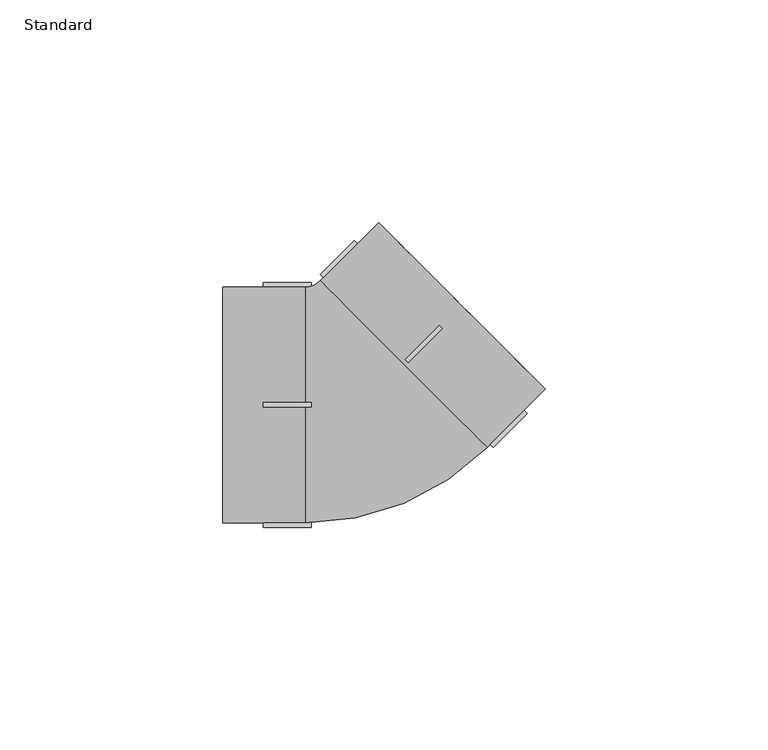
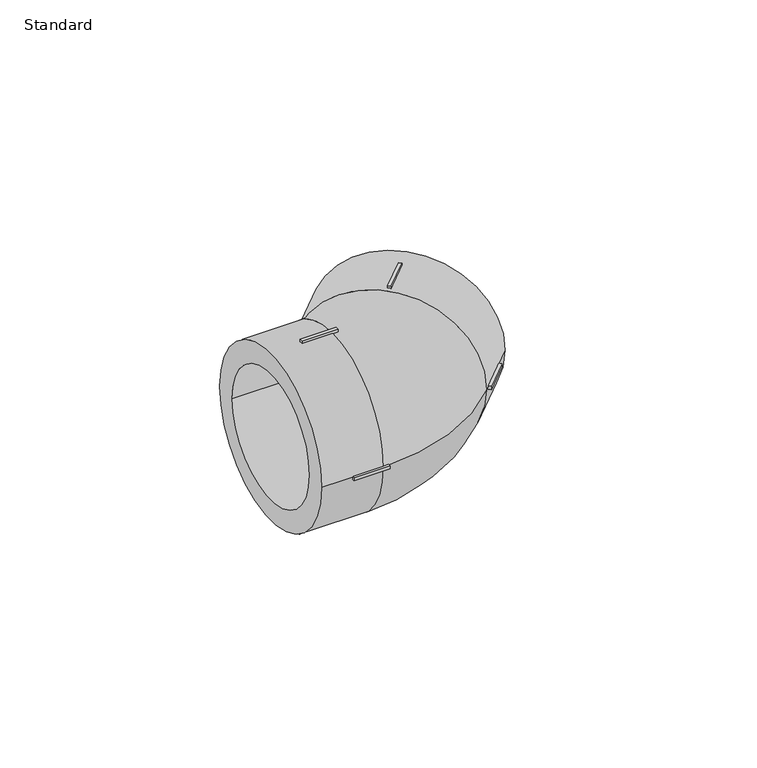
"""IFC4 building model written with IfcOpenShell, lengths in millimetres: pipe fitting geometry, EGB_VASEN_ PPR_Codo 90 WXR200_Codo 45 WXR220  : Standard."""

from ifc_helpers import new_model, si_unit, point, frame, origin, place, context, project, spatial, polyline, circle_curve, ellipse_curve, trimmed, outline, extrude, source, transform, mapped, element, save
from ifc_brep_helpers import plane_surface, cylinder_surface, revolved_surface, advanced_brep


def standard_d82918e3(model_context):
    return source(origin(), model_context, "Body", "SolidModel", [
        advanced_brep(
        [(-31.5, -26.5, 0.0), (-31.5, 26.5, 0.0), (-31.5, -20.0, 0.0), (-31.5, 20.0, 0.0), (-12.9766594, -26.5, 0.0), (-12.9766594, 26.5, 0.0), (-12.9766594, -20.0, 0.0), (-12.9766594, 20.0, 0.0), (23.3180195, -4.9662518, 0.0), (-4.9662518, 23.3180195, 0.0), (-9.5624458, 27.9142136, 0.0), (27.9142136, -9.5624458, 0.0), (9.1758839, 9.1758839, 26.5), (9.1758839, 9.1758839, -26.5), (41.0121933, 3.5355339, 0.0), (3.5355339, 41.0121933, 0.0), (36.4159992, 8.131728, 0.0), (8.131728, 36.4159992, 0.0)],
        [
            (0, 1, circle_curve(frame((-31.5, 0.0, 0.0), z_axis=(-1.0, 0.0, 0.0), x_axis=(0.0, 1.0, 0.0)), 26.5)),
            (1, 0, circle_curve(frame((-31.5, 0.0, 0.0), z_axis=(-1.0, 0.0, 0.0), x_axis=(0.0, 1.0, 0.0)), 26.5)),
            (2, 3, circle_curve(frame((-31.5, 0.0, 0.0), z_axis=(1.0, 0.0, 0.0), x_axis=(0.0, 1.0, 0.0)), 20.0)),
            (3, 2, circle_curve(frame((-31.5, 0.0, 0.0), z_axis=(1.0, 0.0, 0.0), x_axis=(0.0, 1.0, 0.0)), 20.0)),
            (0, 4),
            (4, 5, circle_curve(frame((-12.9766594, 0.0, 0.0), z_axis=(-1.0, 0.0, 0.0), x_axis=(0.0, 1.0, 0.0)), 26.5)),
            (5, 1),
            (5, 4, circle_curve(frame((-12.9766594, 0.0, 0.0), z_axis=(-1.0, 0.0, 0.0), x_axis=(0.0, 1.0, 0.0)), 26.5)),
            (2, 6),
            (6, 7, circle_curve(frame((-12.9766594, 0.0, 0.0), z_axis=(1.0, 0.0, 0.0), x_axis=(0.0, 1.0, 0.0)), 20.0)),
            (7, 3),
            (7, 6, circle_curve(frame((-12.9766594, 0.0, 0.0), z_axis=(1.0, 0.0, 0.0), x_axis=(0.0, 1.0, 0.0)), 20.0)),
            (8, 9, circle_curve(frame((9.1758839, 9.1758839, 0.0), z_axis=(0.707106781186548, 0.7071067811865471, 0.0), x_axis=(-0.7071067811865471, 0.707106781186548, 0.0)), 20.0)),
            (9, 8, circle_curve(frame((9.1758839, 9.1758839, 0.0), z_axis=(0.707106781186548, 0.7071067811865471, 0.0), x_axis=(-0.7071067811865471, 0.707106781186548, 0.0)), 20.0)),
            (10, 5, circle_curve(frame((-12.9766594, 31.3284271, 0.0), z_axis=(0.0, 0.0, -1.0), x_axis=(0.0, -1.0, 0.0)), 4.8284271)),
            (4, 11, circle_curve(frame((-12.9766594, 31.3284271, 0.0), z_axis=(0.0, 0.0, 1.0), x_axis=(0.0, -1.0, 0.0)), 57.8284271)),
            (11, 12, circle_curve(frame((9.1758839, 9.1758839, 0.0), z_axis=(-0.7071067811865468, -0.7071067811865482, 0.0), x_axis=(-0.7071067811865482, 0.7071067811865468, 0.0)), 26.5)),
            (12, 10, circle_curve(frame((9.1758839, 9.1758839, 0.0), z_axis=(-0.7071067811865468, -0.7071067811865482, 0.0), x_axis=(-0.7071067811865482, 0.7071067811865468, 0.0)), 26.5)),
            (10, 13, circle_curve(frame((9.1758839, 9.1758839, 0.0), z_axis=(-0.7071067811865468, -0.7071067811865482, 0.0), x_axis=(-0.7071067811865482, 0.7071067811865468, 0.0)), 26.5)),
            (13, 11, circle_curve(frame((9.1758839, 9.1758839, 0.0), z_axis=(-0.707106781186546, -0.707106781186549, 0.0), x_axis=(-0.707106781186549, 0.707106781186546, 0.0)), 26.5)),
            (14, 15, circle_curve(frame((22.2738636, 22.2738636, 0.0), z_axis=(0.707106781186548, 0.7071067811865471, 0.0), x_axis=(-0.7071067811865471, 0.707106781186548, 0.0)), 26.5)),
            (15, 14, circle_curve(frame((22.2738636, 22.2738636, 0.0), z_axis=(0.707106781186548, 0.7071067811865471, 0.0), x_axis=(-0.7071067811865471, 0.707106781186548, 0.0)), 26.5)),
            (16, 17, circle_curve(frame((22.2738636, 22.2738636, 0.0), z_axis=(-0.707106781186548, -0.7071067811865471, 0.0), x_axis=(-0.7071067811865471, 0.707106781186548, 0.0)), 20.0)),
            (17, 16, circle_curve(frame((22.2738636, 22.2738636, 0.0), z_axis=(-0.707106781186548, -0.7071067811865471, 0.0), x_axis=(-0.7071067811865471, 0.707106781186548, 0.0)), 20.0)),
            (15, 10),
            (11, 14),
            (17, 9),
            (8, 16),
        ],
        [
            plane_surface(frame((-31.5, 0.0, 0.0), z_axis=(-1.0, 0.0, 0.0), x_axis=(0.0, 0.0, 1.0))),
            cylinder_surface(frame((-31.5, 0.0, 0.0), z_axis=(-1.0, 0.0, 0.0), x_axis=(0.0, 1.0, 0.0)), 26.5),
            revolved_surface(polyline([(-12.976659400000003, 20.0, 0.0), (-31.5, 20.0, 0.0)]), (-31.5, 0.0, 0.0), (1.0, 0.0, 0.0)),
            plane_surface(frame((-12.9766594, 0.0, 0.0), z_axis=(-1.0, 0.0, 0.0), x_axis=(0.0, 0.0, 1.0))),
            plane_surface(frame((9.1758839, 9.1758839, 0.0), z_axis=(0.7071067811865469, 0.7071067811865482, 0.0), x_axis=(0.0, 0.0, 1.0))),
            revolved_surface(trimmed(ellipse_curve(frame((-12.9766594, 0.0, 0.0), z_axis=(-1.0, 0.0, 0.0), x_axis=(0.0, 1.0, 0.0)), 26.5, 26.5), [point((-12.9766594, -26.5, 0.0))], [point((-12.9766594, 26.5, 0.0))], True, "CARTESIAN"), (-12.9766594, 31.3284271, 0.0), (0.0, 0.0, 1.0)),
            revolved_surface(trimmed(ellipse_curve(frame((-12.9766594, 0.0, 0.0), z_axis=(-1.0, 0.0, 0.0), x_axis=(0.0, 1.0, 0.0)), 26.5, 26.5), [point((-12.9766594, 26.5, 0.0))], [point((-12.9766594, -26.5, 0.0))], True, "CARTESIAN"), (-12.9766594, 31.3284271, 0.0), (0.0, 0.0, 1.0)),
            plane_surface(frame((22.2738636, 22.2738636, 0.0), z_axis=(0.707106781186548, 0.7071067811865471, 0.0), x_axis=(0.0, 0.0, 1.0))),
            cylinder_surface(frame((9.1758839, 9.1758839, 0.0), z_axis=(-0.707106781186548, -0.7071067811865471, 0.0), x_axis=(-0.7071067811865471, 0.707106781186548, 0.0)), 26.5),
            revolved_surface(polyline([(8.131727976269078, 36.415999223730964, 0.0), (-4.966251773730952, 23.31801947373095, 0.0)]), (9.1758839, 9.1758839, 0.0), (0.707106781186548, 0.7071067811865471, 0.0)),
        ],
        [
            (0, [[1, 2], [3, 4]]),
            (1, [[-1, 5, 6, 7]]),
            (1, [[-2, -7, 8, -5]]),
            (2, [[-3, 9, 10, 11]]),
            (2, [[-4, -11, 12, -9]]),
            (3, [[-10, -12]]),
            (4, [[13, 14]]),
            (5, [[15, -6, 16, 17, 18]]),
            (6, [[-15, 19, 20, -16, -8]]),
            (7, [[21, 22], [23, 24]]),
            (8, [[-22, 25, -18, -17, 26]]),
            (8, [[-21, -26, -20, -19, -25]]),
            (9, [[-24, 27, -13, 28]]),
            (9, [[-23, -28, -14, -27]]),
        ],
    ),
        extrude(outline(polyline([(10.236544, 9.5294373), (9.5294373, 10.236544), (17.1661905, 17.8732973), (17.8732973, 17.1661905), (10.236544, 9.5294373)])), frame((0.0, 0.0, 25.5), z_axis=(0.0, 0.0, 1.0), x_axis=(1.0, 0.0, 0.0)), (0.0, 0.0, 1.0), 2.0),
        extrude(outline(polyline([(-8.1482323, 27.9142136), (-9.5624458, 29.3284271), (-1.9256926, 36.9651804), (-0.511479, 35.5509668), (-8.1482323, 27.9142136)])), frame((0.0, 0.0, -0.5), z_axis=(0.0, 0.0, 1.0), x_axis=(1.0, 0.0, 0.0)), (0.0, 0.0, 1.0), 1.0),
        extrude(outline(polyline([(29.3284271, -9.5624458), (27.9142136, -8.1482323), (35.5509668, -0.511479), (36.9651804, -1.9256926), (29.3284271, -9.5624458)])), frame((0.0, 0.0, -0.5), z_axis=(0.0, 0.0, 1.0), x_axis=(1.0, 0.0, 0.0)), (0.0, 0.0, 1.0), 1.0),
        extrude(outline(polyline([(10.236544, 9.5294373), (9.5294373, 10.236544), (17.1661905, 17.8732973), (17.8732973, 17.1661905), (10.236544, 9.5294373)])), frame((0.0, 0.0, -27.5), z_axis=(0.0, 0.0, 1.0), x_axis=(1.0, 0.0, 0.0)), (0.0, 0.0, 1.0), 2.0),
        extrude(outline(polyline([(-11.5766594, 0.5), (-11.5766594, -0.5), (-22.3766594, -0.5), (-22.3766594, 0.5), (-11.5766594, 0.5)])), frame((0.0, 0.0, 25.5), z_axis=(0.0, 0.0, 1.0), x_axis=(1.0, 0.0, 0.0)), (0.0, 0.0, 1.0), 2.0),
        extrude(outline(polyline([(-11.5766594, 0.5), (-11.5766594, -0.5), (-22.3766594, -0.5), (-22.3766594, 0.5), (-11.5766594, 0.5)])), frame((0.0, 0.0, -27.5), z_axis=(0.0, 0.0, 1.0), x_axis=(1.0, 0.0, 0.0)), (0.0, 0.0, 1.0), 2.0),
        extrude(outline(polyline([(-11.5766594, 27.5), (-11.5766594, 25.5), (-22.3766594, 25.5), (-22.3766594, 27.5), (-11.5766594, 27.5)])), frame((0.0, 0.0, -0.5), z_axis=(0.0, 0.0, 1.0), x_axis=(1.0, 0.0, 0.0)), (0.0, 0.0, 1.0), 1.0),
        extrude(outline(polyline([(-11.5766594, -25.5), (-11.5766594, -27.5), (-22.3766594, -27.5), (-22.3766594, -25.5), (-11.5766594, -25.5)])), frame((0.0, 0.0, -0.5), z_axis=(0.0, 0.0, 1.0), x_axis=(1.0, 0.0, 0.0)), (0.0, 0.0, 1.0), 1.0),
    ])


if __name__ == "__main__":
    model = new_model("IFC4")
    model_context = context("Model", 3, world=origin())
    ifc_project = project(units=[si_unit("LENGTHUNIT", "METRE", prefix="MILLI")], contexts=[model_context])
    site = spatial("IfcSite", under=ifc_project)
    building = spatial("IfcBuilding", under=site)
    placement = place(None, origin())
    standard_shape = standard_d82918e3(model_context)
    element("IfcPipeFitting", 1, ObjectType="EGB_VASEN_ PPR_Codo 90 WXR200_Codo 45 WXR220  : Standard", at=placement, inside=building, context=model_context, shape_type="MappedRepresentation", body=[
        mapped(standard_shape, transform((0.0, 0.0, 0.0), x_axis=(1.0, 0.0, 0.0), y_axis=(0.0, 1.0, 0.0), z_axis=(0.0, 0.0, 1.0))),
    ])
    save(model, "model.ifc")
